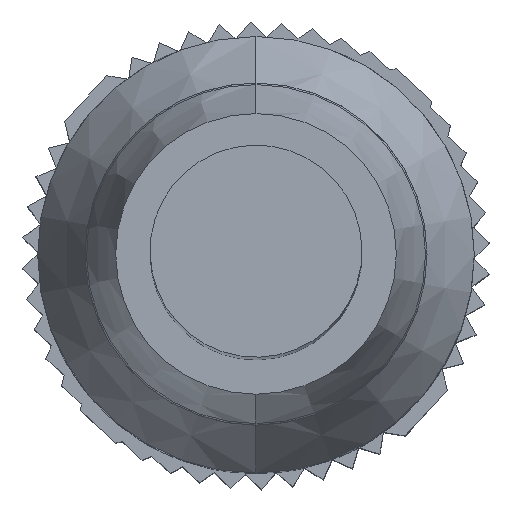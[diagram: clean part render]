
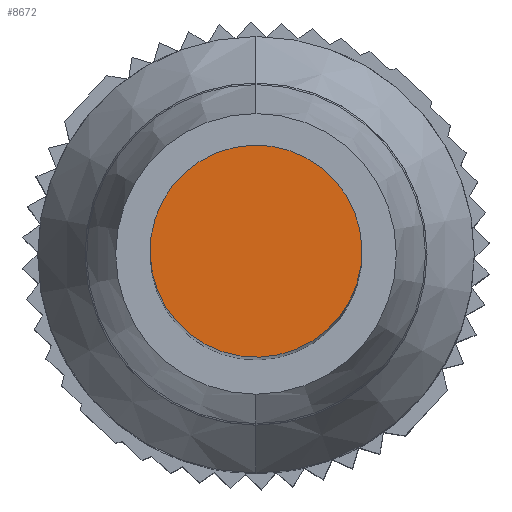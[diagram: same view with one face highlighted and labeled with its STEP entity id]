
A CAD part, top view. The second image highlights one B-rep face of the part: STEP entity #8672.
In plain terms, the highlighted planar face has unit normal (0, 0, 1).
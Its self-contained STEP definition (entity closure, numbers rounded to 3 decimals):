
#1432 = VERTEX_POINT ( 'NONE', #5356 ) ;
#1445 = ORIENTED_EDGE ( 'NONE', *, *, #3668, .T. ) ;
#1671 = CIRCLE ( 'NONE', #4788, 3.4 ) ;
#1792 = CARTESIAN_POINT ( 'NONE',  ( 0.75, 2.176, 93. ) ) ;
#2092 = CARTESIAN_POINT ( 'NONE',  ( 0.75, 2.176, 93. ) ) ;
#2576 = CIRCLE ( 'NONE', #3669, 3.4 ) ;
#3013 = FACE_OUTER_BOUND ( 'NONE', #3618, .T. ) ;
#3402 = DIRECTION ( 'NONE',  ( 0., 0., 1. ) ) ;
#3618 = EDGE_LOOP ( 'NONE', ( #1445, #5836 ) ) ;
#3668 = EDGE_CURVE ( 'NONE', #1432, #6346, #1671, .T. ) ;
#3669 = AXIS2_PLACEMENT_3D ( 'NONE', #1792, #4606, #5283 ) ;
#3759 = DIRECTION ( 'NONE',  ( 0.311, 0.95, 0. ) ) ;
#4606 = DIRECTION ( 'NONE',  ( 0., 0., 1. ) ) ;
#4788 = AXIS2_PLACEMENT_3D ( 'NONE', #6896, #3402, #5107 ) ;
#5107 = DIRECTION ( 'NONE',  ( 0.311, 0.95, 0. ) ) ;
#5148 = EDGE_CURVE ( 'NONE', #6346, #1432, #2576, .T. ) ;
#5283 = DIRECTION ( 'NONE',  ( 0.311, 0.95, 0. ) ) ;
#5356 = CARTESIAN_POINT ( 'NONE',  ( 3.981, 1.119, 93. ) ) ;
#5401 = PLANE ( 'NONE',  #6156 ) ;
#5836 = ORIENTED_EDGE ( 'NONE', *, *, #5148, .T. ) ;
#6092 = CARTESIAN_POINT ( 'NONE',  ( -2.481, 3.233, 93. ) ) ;
#6156 = AXIS2_PLACEMENT_3D ( 'NONE', #2092, #9883, #3759 ) ;
#6346 = VERTEX_POINT ( 'NONE', #6092 ) ;
#6896 = CARTESIAN_POINT ( 'NONE',  ( 0.75, 2.176, 93. ) ) ;
#8672 = ADVANCED_FACE ( 'NONE', ( #3013 ), #5401, .F. ) ;
#9883 = DIRECTION ( 'NONE',  ( 0., 0., -1. ) ) ;
